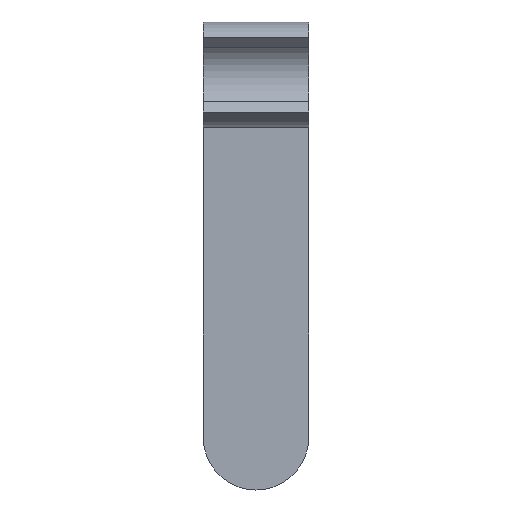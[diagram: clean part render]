
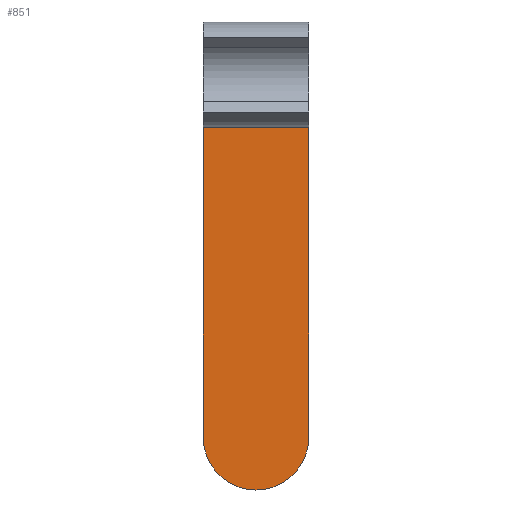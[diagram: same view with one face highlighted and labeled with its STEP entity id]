
A CAD part, left-side view. The second image highlights one B-rep face of the part: STEP entity #851.
In plain terms, the highlighted planar face has unit normal (-1, 0, 0).
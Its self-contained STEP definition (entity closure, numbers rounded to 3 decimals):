
#8 = LINE ( 'NONE', #492, #116 ) ;
#75 = CIRCLE ( 'NONE', #533, 8. ) ;
#91 = FACE_OUTER_BOUND ( 'NONE', #650, .T. ) ;
#116 = VECTOR ( 'NONE', #491, 1000. ) ;
#128 = DIRECTION ( 'NONE',  ( 0., 0., 1. ) ) ;
#129 = DIRECTION ( 'NONE',  ( 1., 0., 0. ) ) ;
#133 = PLANE ( 'NONE',  #593 ) ;
#134 = CARTESIAN_POINT ( 'NONE',  ( 10.75, 0., 0. ) ) ;
#178 = VERTEX_POINT ( 'NONE', #258 ) ;
#223 = VERTEX_POINT ( 'NONE', #364 ) ;
#258 = CARTESIAN_POINT ( 'NONE',  ( 10.75, 0., -55. ) ) ;
#269 = VERTEX_POINT ( 'NONE', #380 ) ;
#310 = CARTESIAN_POINT ( 'NONE',  ( 10.75, 8., -63. ) ) ;
#315 = VERTEX_POINT ( 'NONE', #423 ) ;
#340 = DIRECTION ( 'NONE',  ( 0., 0., -1. ) ) ;
#347 = DIRECTION ( 'NONE',  ( 0., 1., 0. ) ) ;
#357 = CARTESIAN_POINT ( 'NONE',  ( 10.75, 0., -8. ) ) ;
#364 = CARTESIAN_POINT ( 'NONE',  ( 10.75, 0., -8. ) ) ;
#378 = DIRECTION ( 'NONE',  ( 0., 0., -1. ) ) ;
#380 = CARTESIAN_POINT ( 'NONE',  ( 10.75, 16., -8. ) ) ;
#383 = CARTESIAN_POINT ( 'NONE',  ( 10.75, 16., 0. ) ) ;
#385 = DIRECTION ( 'NONE',  ( -1., 0., 0. ) ) ;
#391 = CARTESIAN_POINT ( 'NONE',  ( 10.75, 8., -55. ) ) ;
#423 = CARTESIAN_POINT ( 'NONE',  ( 10.75, 16., -55. ) ) ;
#449 = VERTEX_POINT ( 'NONE', #310 ) ;
#454 = DIRECTION ( 'NONE',  ( 0., 0., -1. ) ) ;
#455 = DIRECTION ( 'NONE',  ( -1., 0., 0. ) ) ;
#461 = CARTESIAN_POINT ( 'NONE',  ( 10.75, 8., -55. ) ) ;
#491 = DIRECTION ( 'NONE',  ( 0., 0., -1. ) ) ;
#492 = CARTESIAN_POINT ( 'NONE',  ( 10.75, 0., 0. ) ) ;
#509 = EDGE_CURVE ( 'NONE', #269, #315, #675, .T. ) ;
#517 = EDGE_CURVE ( 'NONE', #315, #449, #638, .T. ) ;
#523 = EDGE_CURVE ( 'NONE', #223, #269, #634, .T. ) ;
#529 = EDGE_CURVE ( 'NONE', #223, #178, #8, .T. ) ;
#531 = AXIS2_PLACEMENT_3D ( 'NONE', #391, #385, #378 ) ;
#533 = AXIS2_PLACEMENT_3D ( 'NONE', #461, #455, #454 ) ;
#547 = EDGE_CURVE ( 'NONE', #449, #178, #75, .T. ) ;
#593 = AXIS2_PLACEMENT_3D ( 'NONE', #134, #129, #128 ) ;
#633 = VECTOR ( 'NONE', #347, 1000. ) ;
#634 = LINE ( 'NONE', #357, #633 ) ;
#638 = CIRCLE ( 'NONE', #531, 8. ) ;
#650 = EDGE_LOOP ( 'NONE', ( #757, #752, #756, #730, #755 ) ) ;
#652 = VECTOR ( 'NONE', #340, 1000. ) ;
#675 = LINE ( 'NONE', #383, #652 ) ;
#730 = ORIENTED_EDGE ( 'NONE', *, *, #529, .F. ) ;
#752 = ORIENTED_EDGE ( 'NONE', *, *, #517, .T. ) ;
#755 = ORIENTED_EDGE ( 'NONE', *, *, #523, .T. ) ;
#756 = ORIENTED_EDGE ( 'NONE', *, *, #547, .T. ) ;
#757 = ORIENTED_EDGE ( 'NONE', *, *, #509, .T. ) ;
#851 = ADVANCED_FACE ( 'NONE', ( #91 ), #133, .F. ) ;
